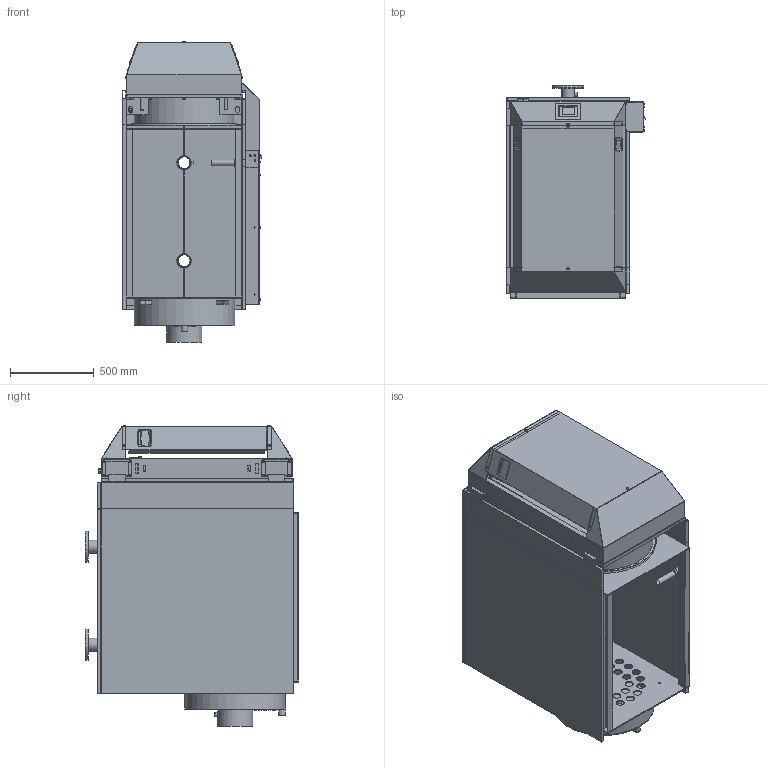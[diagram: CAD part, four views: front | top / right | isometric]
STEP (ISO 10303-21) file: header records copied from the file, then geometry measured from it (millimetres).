
FILE_DESCRIPTION (( 'STEP AP203' ), '1' );
FILE_NAME ('GT3 115.STEP', '2019-03-11T13:37:23', ( '' ), ( '' ), 'SwSTEP 2.0', 'SolidWorks 2019', '' );
FILE_SCHEMA (( 'CONFIG_CONTROL_DESIGN' ));
Length unit declared in the file: millimetre
Products named in the file (1): GT3 115
Bounding box: 830.78 x 1273.5 x 1794.38 mm (x, y, z)
Surface area: 19726285.4 mm2 (no closed solid volume)
Topology: 0 solids, 238 shells, 978 faces, 4899 edges, 4051 vertices
Faces by surface type: plane 520, cylinder 270, torus 91, sphere 45, bspline 30, cone 22
Full cylindrical faces by diameter (mm): 4 x2, 5 x9, 6.9 x1, 8 x9, 8.9 x2, 9 x4, 12 x1, 14 x8, 16 x2, 18 x8, 18.8 x2, 20 x3, 25 x1, 26.4 x2, 27 x1, 30 x1, 30.4 x1, 32 x1, 33.5 x1, 33.7 x1, 37 x1, 39.5 x1, 40 x1, 42 x1, 42.4 x3, 48.6 x2, 50 x1, 60 x1, 70.1 x2, 76.1 x2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
Entity records: 50576 total; most frequent: CARTESIAN_POINT 13252, DIRECTION 7664, ORIENTED_EDGE 5649, EDGE_CURVE 4685, VERTEX_POINT 4001, LINE 2786, VECTOR 2786, AXIS2_PLACEMENT_3D 2439
